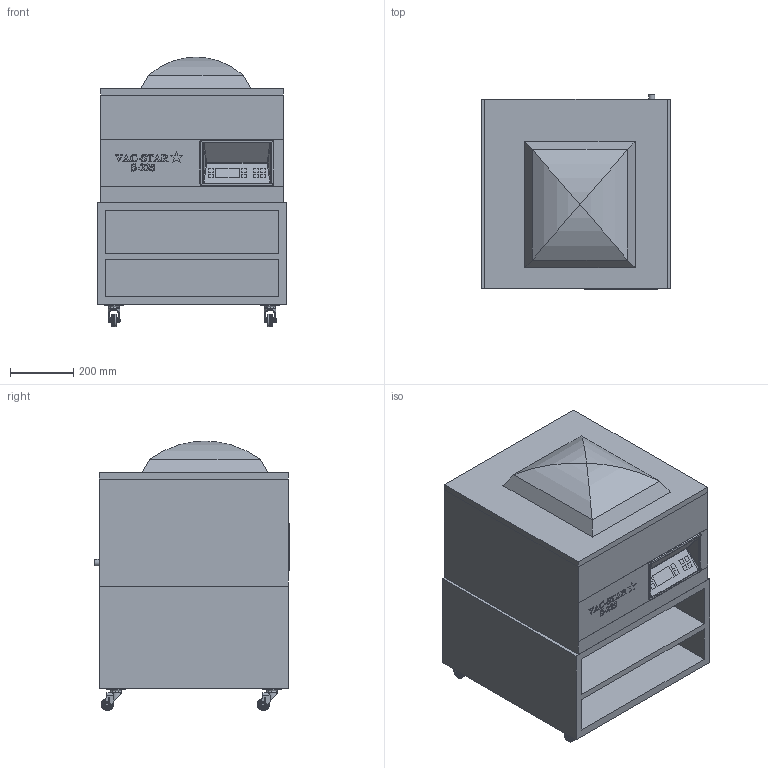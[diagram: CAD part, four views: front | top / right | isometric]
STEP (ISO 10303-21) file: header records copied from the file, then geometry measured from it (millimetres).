
FILE_DESCRIPTION(/* description */ ('Unknown'),/* implementation_level */ '2;1');
FILE_NAME(/* name */ 'C3D-S225-mit-Unterbau-LUC_AA',/* time_stamp */ '2021-10-22T10:39:51+02:00',/* author */ ('Unknown'),/* organization */ ('Unknown'),/* preprocessor_version */ 'ST-DEVELOPER v16.7',/* originating_system */ 'Solid Edge',/* authorisation */ 'Unknown');
FILE_SCHEMA (('AUTOMOTIVE_DESIGN {1 0 10303 214 3 1 1}'));
Length unit declared in the file: millimetre
Products named in the file (8): R-VAC-STAR-S225-UC; R-VAC-STAR-U-L-UC; R-VAC-STAR-S225; 310X PT 50 EL; 310X PT 50 EL_body; 310X PT 50 EL_shaft; 50 EL-6-X; 310X PT 50 EL_plate
Assembly tree (10 placements, depth 3):
  R-VAC-STAR-S225-UC
    R-VAC-STAR-U-L-UC
    R-VAC-STAR-S225
    310X PT 50 EL  x4
      310X PT 50 EL_body
      310X PT 50 EL_shaft
      50 EL-6-X
      310X PT 50 EL_plate
Bounding box: 600 x 618.01 x 855 mm (x, y, z)
Volume: 136511474.1 mm3; surface area: 5719083.4 mm2
Topology: 19 solids, 19 shells, 1559 faces, 3774 edges, 2436 vertices
Faces by surface type: plane 897, cylinder 354, cone 128, torus 116, bspline 38, sphere 26
Full cylindrical faces by diameter (mm): 0.025 x4, 0.1 x4, 1.2 x4, 1.25 x4, 6 x20, 7 x8, 7.8 x8, 9 x8, 10.8 x8, 13 x4, 20 x1, 21 x8, 30 x4, 34.5 x8, 36 x12, 37.5 x8, 39.5 x8, 40 x12
Entity records: 23009 total; most frequent: CARTESIAN_POINT 7261, ORIENTED_EDGE 2746, DIRECTION 2562, EDGE_CURVE 1373, VERTEX_POINT 930, LINE 856, VECTOR 856, AXIS2_PLACEMENT_3D 853
